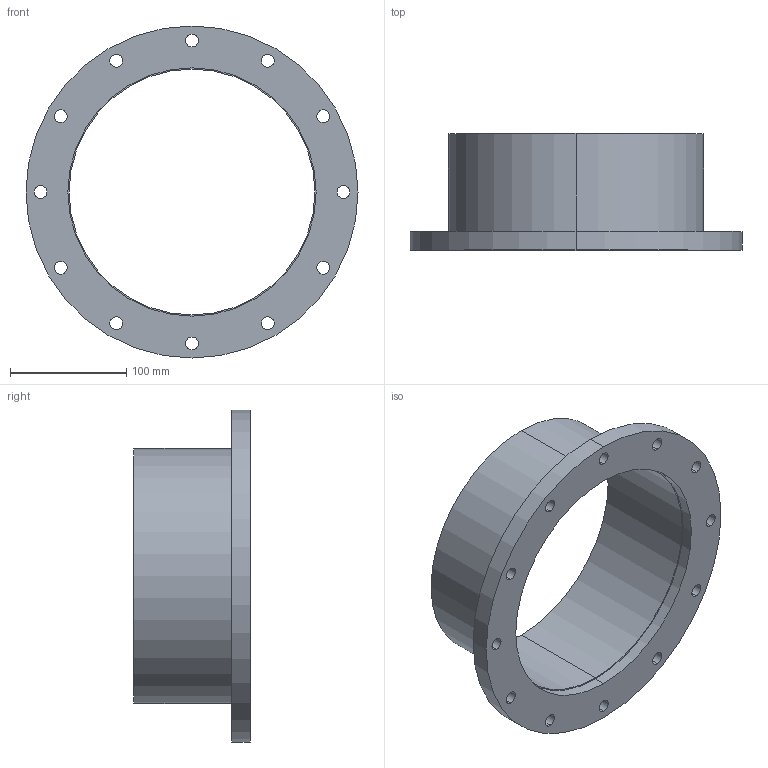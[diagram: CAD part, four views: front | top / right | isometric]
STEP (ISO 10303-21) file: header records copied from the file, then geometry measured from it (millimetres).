
FILE_DESCRIPTION (( 'STEP AP214' ), '1' );
FILE_NAME ('W5KR200.STEP', '2021-09-21T07:08:28', ( '' ), ( '' ), 'SwSTEP 2.0', 'SolidWorks 2020', '' );
FILE_SCHEMA (( 'AUTOMOTIVE_DESIGN' ));
Length unit declared in the file: millimetre
Products named in the file (1): W5KR200
Bounding box: 285 x 100 x 285 mm (x, y, z)
Volume: 662943.5 mm3; surface area: 212741.4 mm2
Topology: 2 solids, 2 shells, 39 faces, 102 edges, 68 vertices
Faces by surface type: cylinder 34, plane 5
Entity records: 1343 total; most frequent: DIRECTION 250, CARTESIAN_POINT 210, ORIENTED_EDGE 204, AXIS2_PLACEMENT_3D 108, EDGE_CURVE 102, EDGE_LOOP 68, CIRCLE 68, VERTEX_POINT 68
